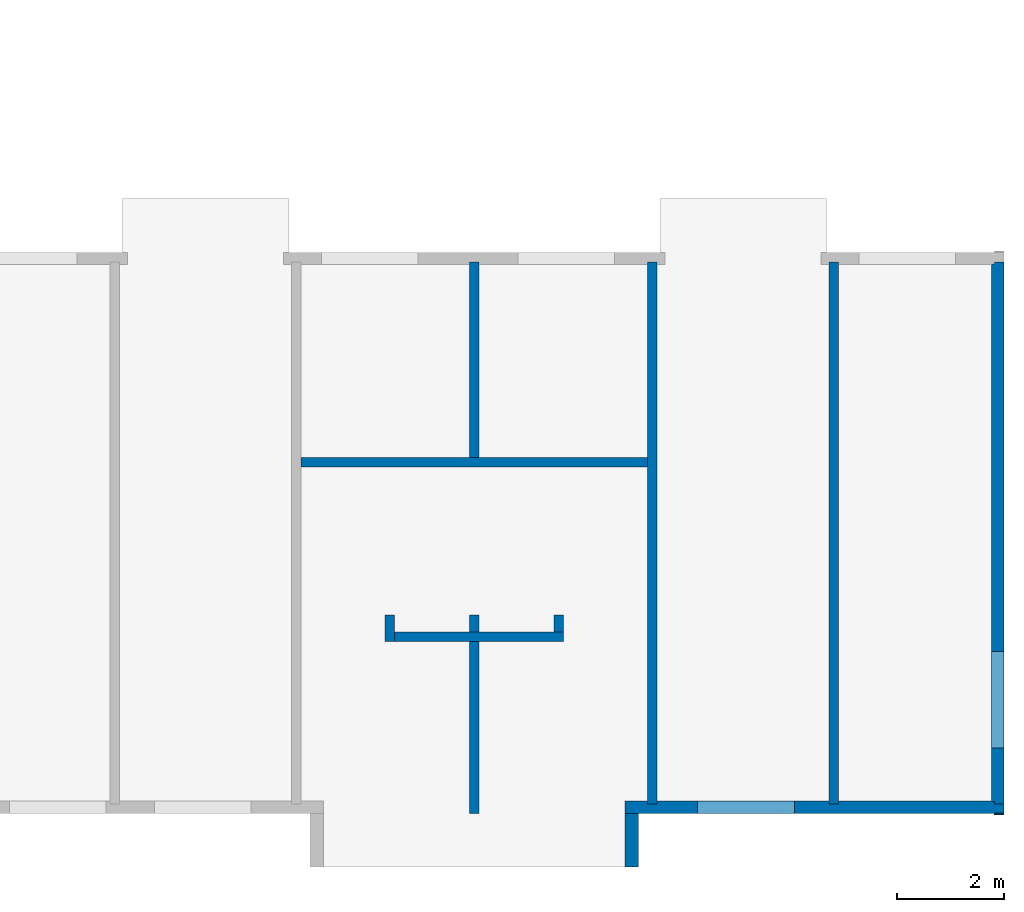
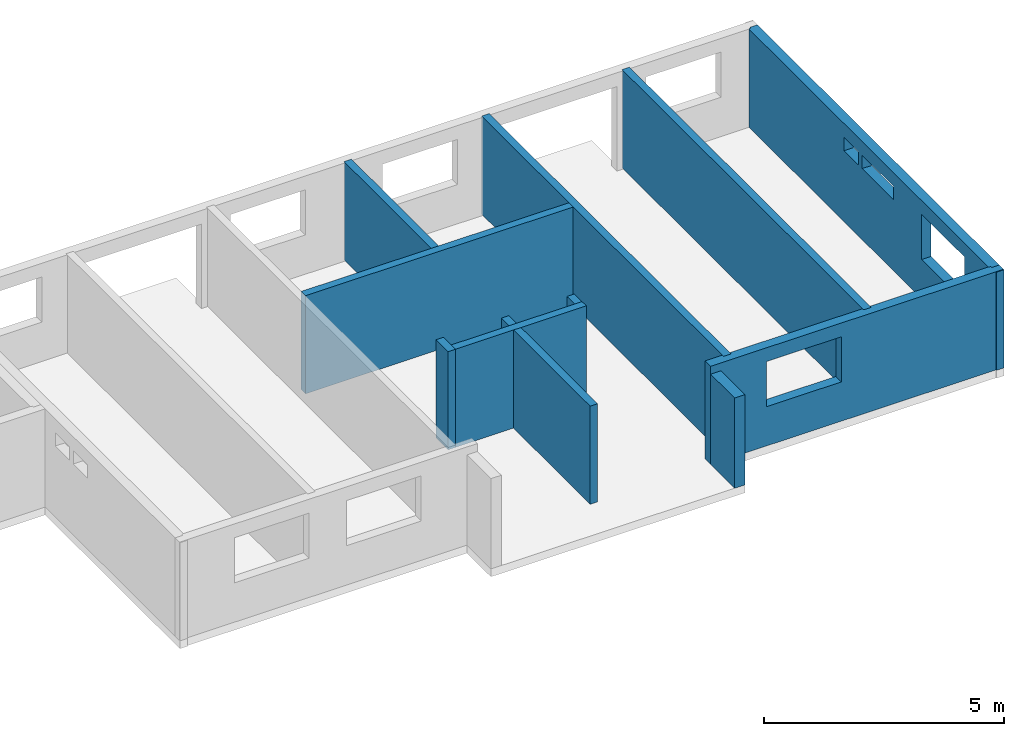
# One storey, part 8 of 9: 13 walls, 4 openings.
"""IFC2X3 building model written with IfcOpenShell, lengths in millimetres."""

from ifc_helpers import new_model, entity, si_unit, converted_unit, frame, frame_2d, origin, origin_with_axes, place, context, subcontext, project, spatial, polyline, rectangle, outline, extrude, material, layer, layer_set, layer_usage, element, save


model = new_model("IFC2X3")

# Units and contexts
model_context = context("Model", 3, precision=1e-05, world=origin())
plan_context = context("Plan", 3, precision=1e-05, world=origin())
body_context = subcontext(model_context, "Body", "Model", "MODEL_VIEW")
ifc_project = project(units=[si_unit("LENGTHUNIT", "METRE", prefix="MILLI"), converted_unit("PLANEANGLEUNIT", "DEGREE", entity("IfcPlaneAngleMeasure", 0.0174532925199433), si_unit("PLANEANGLEUNIT", "RADIAN"), dimensions=[0, 0, 0, 0, 0, 0, 0]), si_unit("AREAUNIT", "SQUARE_METRE"), si_unit("VOLUMEUNIT", "CUBIC_METRE")], contexts=[model_context, plan_context])

# Building, storey
building_placement = place(None, origin())
building = spatial("IfcBuilding", under=ifc_project, at=building_placement, Name="Bâtiment", CompositionType="ELEMENT")
storey_placement = place(building_placement, origin_with_axes())
storey = spatial("IfcBuildingStorey", under=building, at=storey_placement, Name="rdc", CompositionType="ELEMENT", Elevation=0.0)

# Walls
ifc_material_1 = material(Name="moellons")
ifc_layer_1 = layer(ifc_material_1, 20.16279356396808)
ifc_layer_set_1 = layer_set([ifc_layer_1])
ifc_layer_usage_1 = layer_usage(ifc_layer_set_1, "AXIS2", "POSITIVE", 0.0)
wall_1_placement = place(storey_placement, frame((59549.9999999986, -5599.999999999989, 0.0), z_axis=(0.0, 0.0, 1.0), x_axis=(-1.0, 0.0, 0.0)))
element("IfcWallStandardCase", 1, at=wall_1_placement, inside=storey, material=ifc_layer_usage_1, context=body_context, shape_type="SweptSolid", body=[
    extrude(rectangle(XDim=180.0, YDim=20.16279356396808, at=frame_2d((90.0, 10.08139678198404), x_axis=(1.0, 0.0))), frame((0.0, -20.16279356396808, 0.0), z_axis=(0.0, 0.0, 1.0), x_axis=(1.0, 0.0, 0.0)), (0.0, 0.0, 1.0), 2500.0),
])
ifc_material_2 = material(Name="moellons")
ifc_layer_2 = layer(ifc_material_2, 180.0)
ifc_layer_set_2 = layer_set([ifc_layer_2])
ifc_layer_usage_2 = layer_usage(ifc_layer_set_2, "AXIS2", "POSITIVE", 0.0)
wall_2_placement = place(storey_placement, frame((53089.99993810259, -5399.837206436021, 0.0), z_axis=(0.0, 0.0, 1.0), x_axis=(0.0, 1.0, 0.0)))
element("IfcWallStandardCase", 2, at=wall_2_placement, inside=storey, material=ifc_layer_usage_2, context=body_context, shape_type="SweptSolid", body=[
    extrude(rectangle(XDim=10089.91497192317, YDim=180.0, at=frame_2d((5044.957485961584, 90.0), x_axis=(1.0, 0.0))), origin_with_axes(), (0.0, 0.0, 1.0), 2500.0),
])
ifc_material_3 = material(Name="moellons")
ifc_layer_3 = layer(ifc_material_3, 180.0)
ifc_layer_set_3 = layer_set([ifc_layer_3])
ifc_layer_usage_3 = layer_usage(ifc_layer_set_3, "AXIS2", "POSITIVE", 0.0)
wall_3_placement = place(storey_placement, frame((56469.99999999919, -5399.837206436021, 0.0), z_axis=(0.0, 0.0, 1.0), x_axis=(0.0, 1.0, 0.0)))
element("IfcWallStandardCase", 3, at=wall_3_placement, inside=storey, material=ifc_layer_usage_3, context=body_context, shape_type="SweptSolid", body=[
    extrude(rectangle(XDim=10089.91497192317, YDim=180.0, at=frame_2d((5044.957485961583, 90.0), x_axis=(1.0, 0.0))), origin_with_axes(), (0.0, 0.0, 1.0), 2500.0),
])
ifc_material_4 = material(Name="moellons")
ifc_layer_4 = layer(ifc_material_4, 180.0)
ifc_layer_set_4 = layer_set([ifc_layer_4])
ifc_layer_usage_4 = layer_usage(ifc_layer_set_4, "AXIS2", "POSITIVE", 0.0)
wall_4_placement = place(storey_placement, frame((49774.99999999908, -5579.961782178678, 0.0), z_axis=(0.0, 0.0, 1.0), x_axis=(0.0, 1.0, 0.0)))
element("IfcWallStandardCase", 4, at=wall_4_placement, inside=storey, material=ifc_layer_usage_4, context=body_context, shape_type="SweptSolid", body=[
    extrude(outline(polyline([(0.0, 0.0), (3200.039547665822, 0.0), (3200.039547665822, 180.0), (0.0007169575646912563, 180.0), (0.0, 0.0)])), origin_with_axes(), (0.0, 0.0, 1.0), 2500.0),
])
ifc_material_5 = material(Name="moellons")
ifc_layer_5 = layer(ifc_material_5, 180.0)
ifc_layer_set_5 = layer_set([ifc_layer_5])
ifc_layer_usage_5 = layer_usage(ifc_layer_set_5, "AXIS2", "POSITIVE", 0.0)
wall_5_placement = place(storey_placement, frame((49774.99999999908, -5579.961782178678, 0.0), z_axis=(0.0, 0.0, 1.0), x_axis=(0.0, 1.0, 0.0)))
element("IfcWallStandardCase", 5, at=wall_5_placement, inside=storey, material=ifc_layer_usage_5, context=body_context, shape_type="SweptSolid", body=[
    extrude(outline(polyline([(3380.039547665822, 0.0), (3700.039547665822, 0.0), (3700.039547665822, 180.0), (3380.039547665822, 180.0), (3380.039547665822, 0.0)])), origin_with_axes(), (0.0, 0.0, 1.0), 2500.0),
])
ifc_material_6 = material(Name="moellons")
ifc_layer_6 = layer(ifc_material_6, 180.0)
ifc_layer_set_6 = layer_set([ifc_layer_6])
ifc_layer_usage_6 = layer_usage(ifc_layer_set_6, "AXIS2", "POSITIVE", 0.0)
wall_6_placement = place(storey_placement, frame((49774.99999999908, 1050.077765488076, 0.0), z_axis=(0.0, 0.0, 1.0), x_axis=(0.0, 1.0, 0.0)))
element("IfcWallStandardCase", 6, at=wall_6_placement, inside=storey, material=ifc_layer_usage_6, context=body_context, shape_type="SweptSolid", body=[
    extrude(rectangle(XDim=3639.999999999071, YDim=180.0, at=frame_2d((1819.999999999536, 90.0), x_axis=(1.0, 0.0))), origin_with_axes(), (0.0, 0.0, 1.0), 2500.0),
])
ifc_material_7 = material(Name="moellons")
ifc_layer_7 = layer(ifc_material_7, 180.0)
ifc_layer_set_7 = layer_set([ifc_layer_7])
ifc_layer_usage_7 = layer_usage(ifc_layer_set_7, "AXIS2", "POSITIVE", 0.0)
wall_7_placement = place(storey_placement, frame((52909.99947974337, 1050.077765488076, 0.0), z_axis=(0.0, 0.0, 1.0), x_axis=(-1.0, 0.0, 0.0)))
element("IfcWallStandardCase", 7, at=wall_7_placement, inside=storey, material=ifc_layer_usage_7, context=body_context, shape_type="SweptSolid", body=[
    extrude(rectangle(XDim=6449.999479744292, YDim=180.0, at=frame_2d((3224.999739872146, 90.0), x_axis=(1.0, 0.0))), origin_with_axes(), (0.0, 0.0, 1.0), 2500.0),
])
ifc_material_8 = material(Name="moellons")
ifc_layer_8 = layer(ifc_material_8, 180.0)
ifc_layer_set_8 = layer_set([ifc_layer_8])
ifc_layer_usage_8 = layer_usage(ifc_layer_set_8, "AXIS2", "POSITIVE", 0.0)
wall_8_placement = place(storey_placement, frame((48199.99945313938, -2379.922234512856, 0.0), z_axis=(0.0, 0.0, 1.0), x_axis=(0.0, 1.0, 0.0)))
element("IfcWallStandardCase", 8, at=wall_8_placement, inside=storey, material=ifc_layer_usage_8, context=body_context, shape_type="SweptSolid", body=[
    extrude(rectangle(XDim=500.0, YDim=180.0, at=frame_2d((250.0, 90.0), x_axis=(1.0, 0.0))), origin_with_axes(), (0.0, 0.0, 1.0), 2500.0),
])
ifc_material_9 = material(Name="moellons")
ifc_layer_9 = layer(ifc_material_9, 180.0)
ifc_layer_set_9 = layer_set([ifc_layer_9])
ifc_layer_usage_9 = layer_usage(ifc_layer_set_9, "AXIS2", "POSITIVE", 0.0)
wall_9_placement = place(storey_placement, frame((51349.9994531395, -2199.922234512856, 0.0), z_axis=(0.0, 0.0, 1.0), x_axis=(-1.0, 0.0, 0.0)))
element("IfcWallStandardCase", 9, at=wall_9_placement, inside=storey, material=ifc_layer_usage_9, context=body_context, shape_type="SweptSolid", body=[
    extrude(rectangle(XDim=3150.000000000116, YDim=180.0, at=frame_2d((1575.000000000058, 90.0), x_axis=(1.0, 0.0))), origin_with_axes(), (0.0, 0.0, 1.0), 2500.0),
])
ifc_material_10 = material(Name="moellons")
ifc_layer_10 = layer(ifc_material_10, 180.0)
ifc_layer_set_10 = layer_set([ifc_layer_10])
ifc_layer_usage_10 = layer_usage(ifc_layer_set_10, "AXIS2", "POSITIVE", 0.0)
wall_10_placement = place(storey_placement, frame((51169.9994531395, -1879.922234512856, 0.0), z_axis=(0.0, 0.0, 1.0), x_axis=(0.0, -1.0, 0.0)))
element("IfcWallStandardCase", 10, at=wall_10_placement, inside=storey, material=ifc_layer_usage_10, context=body_context, shape_type="SweptSolid", body=[
    extrude(rectangle(XDim=320.0, YDim=180.0, at=frame_2d((160.0, 90.0), x_axis=(1.0, 0.0))), origin_with_axes(), (0.0, 0.0, 1.0), 2500.0),
])

# Wall, openings
ifc_material_11 = material(Name="moellons")
ifc_layer_11 = layer(ifc_material_11, 180.0)
ifc_material_12 = material(Name="briquettes")
ifc_layer_12 = layer(ifc_material_12, 40.0)
ifc_material_13 = material(Name="enduit platre")
ifc_layer_13 = layer(ifc_material_13, 10.0)
ifc_layer_set_11 = layer_set([ifc_layer_11, ifc_layer_12, ifc_layer_13])
ifc_layer_usage_11 = layer_usage(ifc_layer_set_11, "AXIS2", "POSITIVE", 0.0)
wall_11_placement = place(storey_placement, frame((59549.99999999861, -5399.837206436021, 0.0), z_axis=(0.0, 0.0, 1.0), x_axis=(0.0, 1.0, 0.0)))
wall_11 = element("IfcWallStandardCase", 11, at=wall_11_placement, inside=storey, material=ifc_layer_usage_11, context=body_context, shape_type="SweptSolid", body=[
    extrude(outline(polyline([(0.0, 0.0), (10089.91497192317, 0.0), (10089.91497192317, 180.0), (10049.91497192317, 180.0), (10049.91497192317, 220.0), (10039.91497192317, 220.0), (10039.91497192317, 230.0), (50.0, 230.0), (50.0, 220.0), (40.0, 220.0), (40.0, 180.0), (0.0, 180.0), (0.0, 0.0)])), origin_with_axes(), (0.0, 0.0, 1.0), 2500.0),
])
opening_1_placement = place(wall_11_placement, frame((1039.837206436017, 0.0, 1000.0), z_axis=(0.0, 1.0, 0.0), x_axis=(0.0, 0.0, 1.0)))
element("IfcOpeningElement", 12, at=opening_1_placement, cuts=wall_11, Name="Baie de fenêtre", ObjectType="Opening", context=body_context, shape_type="SweptSolid", body=[
    extrude(rectangle(XDim=1150.0, YDim=1800.0, at=frame_2d((575.0, 900.0), x_axis=(1.0, 0.0))), origin_with_axes(), (0.0, 0.0, 1.0), 230.0),
])
opening_2_placement = place(wall_11_placement, frame((5469.914971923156, 0.0, 1810.0), z_axis=(0.0, 1.0, 0.0), x_axis=(0.0, 0.0, 1.0)))
element("IfcOpeningElement", 13, at=opening_2_placement, cuts=wall_11, Name="Baie de fenêtre", ObjectType="Opening", context=body_context, shape_type="SweptSolid", body=[
    extrude(rectangle(XDim=340.0, YDim=600.0, at=frame_2d((170.0, 300.0), x_axis=(1.0, 0.0))), origin_with_axes(), (0.0, 0.0, 1.0), 230.0),
])
opening_3_placement = place(wall_11_placement, frame((4019.914971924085, 0.0, 1810.0), z_axis=(0.0, 1.0, 0.0), x_axis=(0.0, 0.0, 1.0)))
element("IfcOpeningElement", 14, at=opening_3_placement, cuts=wall_11, Name="Baie de fenêtre", ObjectType="Opening", context=body_context, shape_type="SweptSolid", body=[
    extrude(rectangle(XDim=340.0, YDim=1300.0, at=frame_2d((170.0, 650.0), x_axis=(1.0, 0.0))), origin_with_axes(), (0.0, 0.0, 1.0), 230.0),
])

# Wall, opening
ifc_material_14 = material(Name="moellons")
ifc_layer_14 = layer(ifc_material_14, 180.0)
ifc_material_15 = material(Name="briquettes")
ifc_layer_15 = layer(ifc_material_15, 40.0)
ifc_material_16 = material(Name="enduit platre")
ifc_layer_16 = layer(ifc_material_16, 10.0)
ifc_layer_set_12 = layer_set([ifc_layer_14, ifc_layer_15, ifc_layer_16])
ifc_layer_usage_12 = layer_usage(ifc_layer_set_12, "AXIS2", "POSITIVE", 0.0)
wall_12_placement = place(storey_placement, frame((52494.99999999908, -5579.837206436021, 0.0), z_axis=(0.0, 0.0, 1.0), x_axis=(1.0, 0.0, 0.0)))
wall_12 = element("IfcWallStandardCase", 15, at=wall_12_placement, inside=storey, material=ifc_layer_usage_12, context=body_context, shape_type="SweptSolid", body=[
    extrude(outline(polyline([(0.0, 0.0), (7054.999999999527, 0.0), (7054.999999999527, 180.0), (6874.999999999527, 180.0), (6874.999999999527, 220.0), (6834.999999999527, 220.0), (6834.999999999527, 230.0), (3975.000000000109, 230.0), (3975.000000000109, 180.0), (3795.000000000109, 180.0), (3795.000000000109, 230.0), (594.9999381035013, 230.0), (594.9999381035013, 180.0), (414.9999381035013, 180.0), (414.9999381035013, 230.0), (0.0, 230.0), (0.0, 0.0)])), origin_with_axes(), (0.0, 0.0, 1.0), 2500.0),
])
opening_4_placement = place(wall_12_placement, frame((1349.999999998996, 0.0, 1000.0), z_axis=(0.0, 1.0, 0.0), x_axis=(0.0, 0.0, 1.0)))
element("IfcOpeningElement", 16, at=opening_4_placement, cuts=wall_12, Name="Baie de fenêtre", ObjectType="Opening", context=body_context, shape_type="SweptSolid", body=[
    extrude(rectangle(XDim=1150.0, YDim=1800.0, at=frame_2d((575.0, 900.0), x_axis=(1.0, 0.0))), origin_with_axes(), (0.0, 0.0, 1.0), 230.0),
])

# Wall
ifc_material_17 = material(Name="moellons")
ifc_layer_17 = layer(ifc_material_17, 250.0)
ifc_layer_set_13 = layer_set([ifc_layer_17])
ifc_layer_usage_13 = layer_usage(ifc_layer_set_13, "AXIS2", "POSITIVE", 0.0)
wall_13_placement = place(storey_placement, frame((52494.99999999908, -5579.837206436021, 0.0), z_axis=(0.0, 0.0, 1.0), x_axis=(0.0, -1.0, 0.0)))
element("IfcWallStandardCase", 17, at=wall_13_placement, inside=storey, material=ifc_layer_usage_13, context=body_context, shape_type="SweptSolid", body=[
    extrude(rectangle(XDim=999.9997854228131, YDim=250.0, at=frame_2d((499.9998927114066, 125.0), x_axis=(1.0, 0.0))), origin_with_axes(), (0.0, 0.0, 1.0), 2300.000000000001),
])

save(model, "model.ifc")
